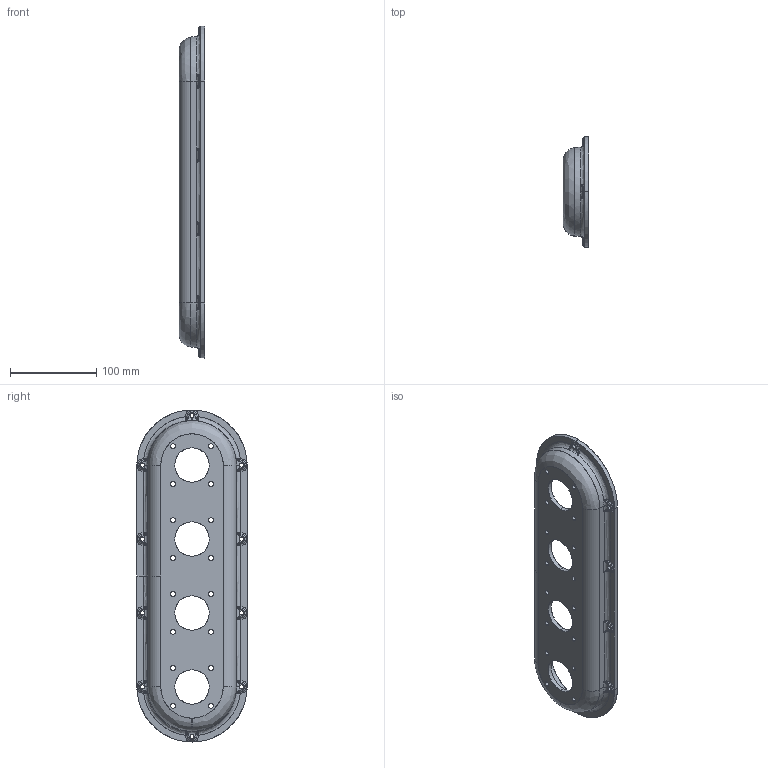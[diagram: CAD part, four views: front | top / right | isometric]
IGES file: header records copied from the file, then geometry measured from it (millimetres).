
Start section: SolidWorks IGES file using analytic representation for surfaces
Global section: file name: D:\??????? ? ?????\Lehmann turbo manifold MX-5 Miata\Lehmann turbo manifold MX-5 Miata F40 plenum back.IGS; native system: SolidWorks 2019; preprocessor: SolidWorks 2019; author: GOD; date: 250313.154428; units: millimetre
Bounding box: 30 x 128 x 386 mm (x, y, z)
Surface area: 119253.1 mm2 (no closed solid volume)
Topology: 0 solids, 0 shells, 358 faces, 4710 edges, 4710 vertices
Faces by surface type: bspline 216, revolution 142
